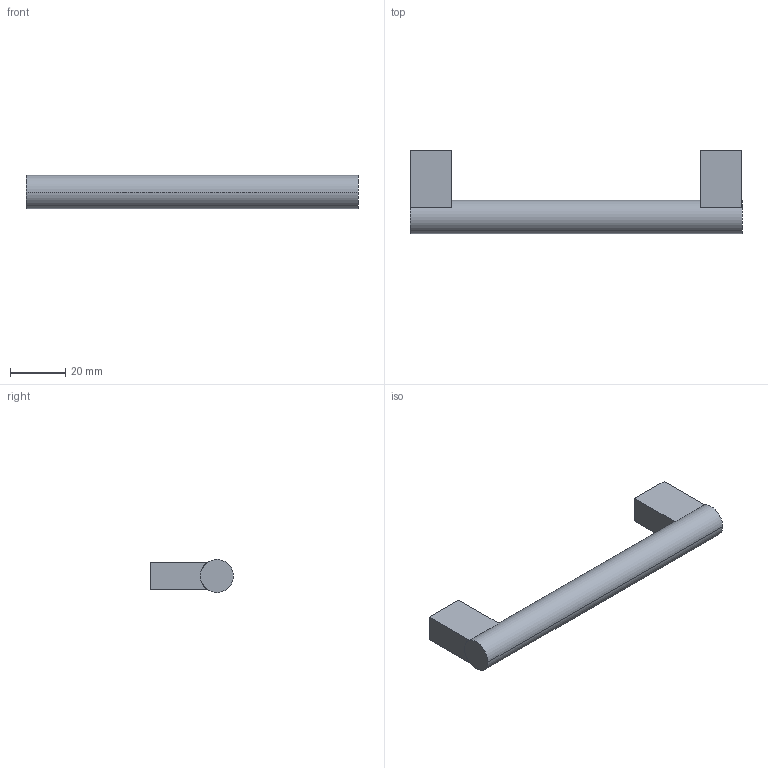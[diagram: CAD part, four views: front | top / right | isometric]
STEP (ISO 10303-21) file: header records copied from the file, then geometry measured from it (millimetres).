
FILE_DESCRIPTION( ( '' ), '1' );
FILE_NAME( 'C:/Documents and Settings/Nikhil/Desktop/Nik/Done/9995497.stp', '2013-10-24T05:46:24', ( '' ), ( '' ), ' ', ' ', ' ' );
FILE_SCHEMA( ( 'automotive_design' ) );
Length unit declared in the file: millimetre
Products named in the file (1): 1
Bounding box: 120 x 30 x 12 mm (x, y, z)
Volume: 19009.2 mm3; surface area: 6889.3 mm2
Topology: 1 solids, 1 shells, 20 faces, 48 edges, 32 vertices
Faces by surface type: plane 14, cylinder 6
Entity records: 1176 total; most frequent: DIRECTION 110, STYLED_ITEM 101, PRESENTATION_STYLE_ASSIGNMENT 101, CARTESIAN_POINT 101, COLOUR_RGB 101, ORIENTED_EDGE 96, EDGE_CURVE 48, CURVE_STYLE 48
